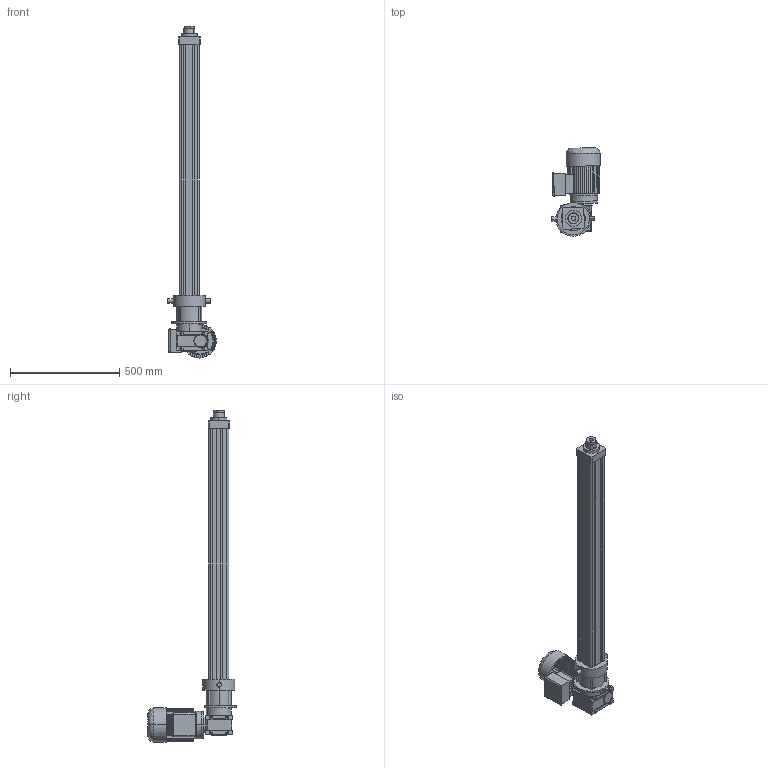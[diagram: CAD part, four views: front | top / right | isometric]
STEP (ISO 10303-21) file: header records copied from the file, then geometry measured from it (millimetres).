
FILE_DESCRIPTION (( 'STEP AP214' ), '1' );
FILE_NAME ('Ass RV80 BI C1000.STEP', '2017-01-03T16:22:12', ( 'Hubert' ), ( '' ), 'SwSTEP 2.0', 'SolidWorks 2014', '' );
FILE_SCHEMA (( 'AUTOMOTIVE_DESIGN' ));
Length unit declared in the file: millimetre
Products named in the file (9): Ass CHM50_FC MOT 80 F; _AT_80_B_2_1,10_B14_F_230-400-50_DC-S.3d; _CHM_50_FC_2_7,5_80_B14_B3.3d; Tube MR 80 BI C1000; PAAV 80 D; Profilé MRRV80 BI C1000; Vis MRRV80 BI C1000; PAAR RV 80 B160; Ass RV80 BI C1000
Assembly tree (8 placements, depth 3):
  Ass RV80 BI C1000
    PAAR RV 80 B160
    Vis MRRV80 BI C1000
    Profilé MRRV80 BI C1000
    PAAV 80 D
    Tube MR 80 BI C1000
    Ass CHM50_FC MOT 80 F
      _CHM_50_FC_2_7,5_80_B14_B3.3d
      _AT_80_B_2_1,10_B14_F_230-400-50_DC-S.3d
Bounding box: 222.85 x 405.76 x 1522 mm (x, y, z)
Volume: 11661658.5 mm3; surface area: 2118286.3 mm2
Topology: 7 solids, 11 shells, 833 faces, 2164 edges, 1391 vertices
Faces by surface type: plane 422, cylinder 382, cone 22, bspline 7
Entity records: 34432 total; most frequent: CARTESIAN_POINT 4908, DIRECTION 4660, ORIENTED_EDGE 4288, EDGE_CURVE 2144, AXIS2_PLACEMENT_3D 1689, VERTEX_POINT 1391, LINE 1282, VECTOR 1282
